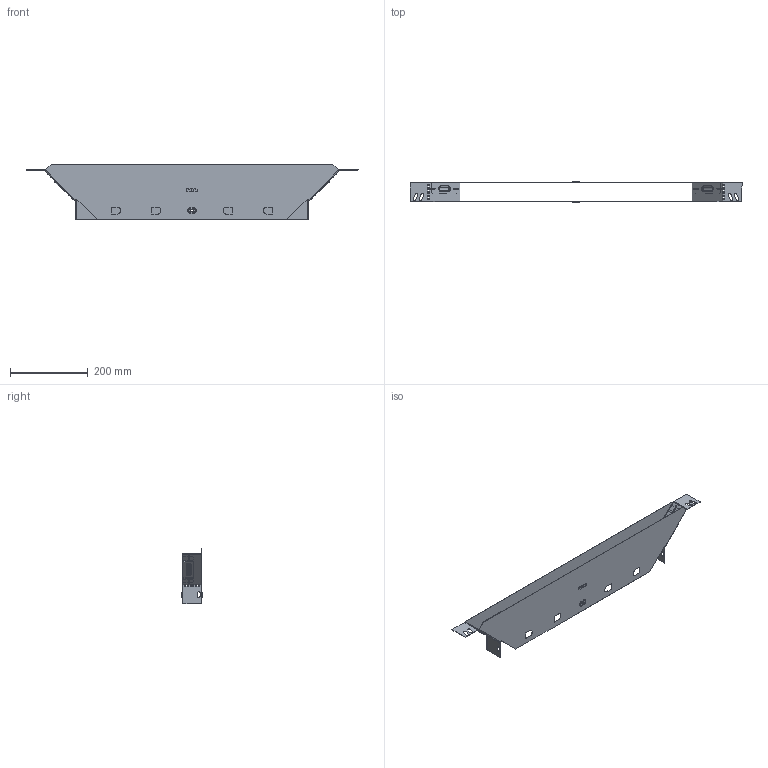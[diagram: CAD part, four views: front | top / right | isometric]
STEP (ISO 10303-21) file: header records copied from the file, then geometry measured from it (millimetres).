
FILE_DESCRIPTION (( 'STEP AP214' ), '1' );
FILE_NAME ('tn5060008_捘.STEP', '2019-06-10T07:59:53', ( '砐錪賧瘔蠈錪 Windows' ), ( '' ), 'SwSTEP 2.0', 'SolidWorks 2018', '' );
FILE_SCHEMA (( 'AUTOMOTIVE_DESIGN' ));
Length unit declared in the file: millimetre
Products named in the file (1): tn5060008_捘
Bounding box: 856.02 x 53.8 x 144 mm (x, y, z)
Volume: 158711.6 mm3; surface area: 401164.3 mm2
Topology: 2 solids, 2 shells, 588 faces, 1632 edges, 1040 vertices
Faces by surface type: plane 356, cylinder 166, torus 48, bspline 18
Entity records: 19611 total; most frequent: CARTESIAN_POINT 4219, ORIENTED_EDGE 3264, DIRECTION 3142, EDGE_CURVE 1632, VECTOR 1192, LINE 1192, VERTEX_POINT 1040, AXIS2_PLACEMENT_3D 975
